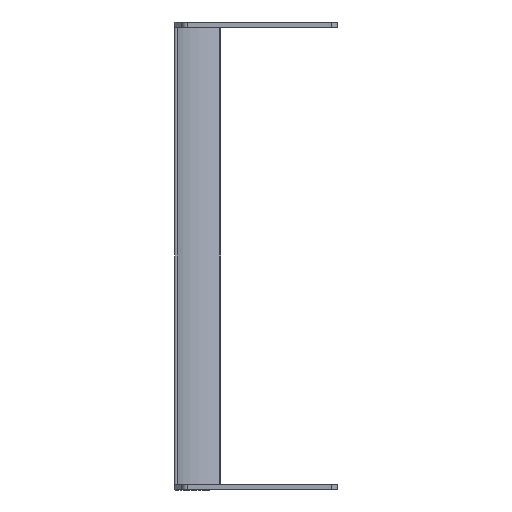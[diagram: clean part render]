
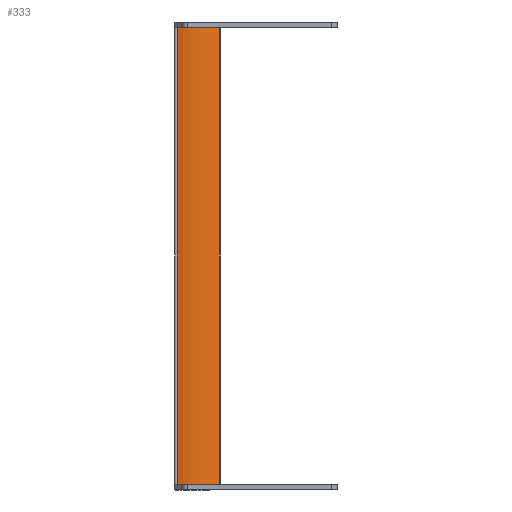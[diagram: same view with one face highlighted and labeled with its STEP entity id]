
A CAD part, left-side view. The second image highlights one B-rep face of the part: STEP entity #333.
In plain terms, the highlighted cylindrical face has radius 40.64 mm (diameter 81.28 mm), a partial arc.
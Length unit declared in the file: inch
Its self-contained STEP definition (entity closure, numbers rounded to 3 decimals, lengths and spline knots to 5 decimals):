
#40=CARTESIAN_POINT('',(-1.52,1.63,-5.118));
#41=DIRECTION('',(0.,0.,-1.));
#42=DIRECTION('',(0.914,-0.405,0.));
#43=AXIS2_PLACEMENT_3D('',#40,#41,#42);
#87=CARTESIAN_POINT('',(-1.52,1.63,5.118));
#88=DIRECTION('',(0.,0.,-1.));
#89=DIRECTION('',(0.914,-0.405,0.));
#90=AXIS2_PLACEMENT_3D('',#87,#88,#89);
#118=DIRECTION('',(0.,0.,1.));
#119=VECTOR('',#118,10.236);
#120=CARTESIAN_POINT('',(-1.00032,0.11675,-5.118));
#121=LINE('',#120,#119);
#122=DIRECTION('',(0.,0.,1.));
#123=VECTOR('',#122,10.236);
#124=CARTESIAN_POINT('',(-0.05742,0.98126,-5.118));
#125=LINE('',#124,#123);
#154=CARTESIAN_POINT('',(-0.05742,0.98126,-5.118));
#155=VERTEX_POINT('',#154);
#156=CARTESIAN_POINT('',(-1.00032,0.11675,-5.118));
#157=VERTEX_POINT('',#156);
#174=CARTESIAN_POINT('',(-0.05742,0.98126,5.118));
#175=VERTEX_POINT('',#174);
#176=CARTESIAN_POINT('',(-1.00032,0.11675,5.118));
#177=VERTEX_POINT('',#176);
#321=CARTESIAN_POINT('',(-1.52,1.63,-5.118));
#322=DIRECTION('',(0.,0.,1.));
#323=DIRECTION('',(1.,0.,0.));
#324=AXIS2_PLACEMENT_3D('',#321,#322,#323);
#325=CYLINDRICAL_SURFACE('',#324,1.6);
#326=ORIENTED_EDGE('',*,*,#191,.F.);
#328=ORIENTED_EDGE('',*,*,#327,.T.);
#329=ORIENTED_EDGE('',*,*,#247,.T.);
#330=ORIENTED_EDGE('',*,*,#314,.F.);
#331=EDGE_LOOP('',(#326,#328,#329,#330));
#332=FACE_OUTER_BOUND('',#331,.F.);
#44=CIRCLE('',#43,1.6);
#91=CIRCLE('',#90,1.6);
#191=EDGE_CURVE('',#155,#157,#44,.T.);
#247=EDGE_CURVE('',#175,#177,#91,.T.);
#314=EDGE_CURVE('',#157,#177,#121,.T.);
#327=EDGE_CURVE('',#155,#175,#125,.T.);
#333=ADVANCED_FACE('',(#332),#325,.F.);
